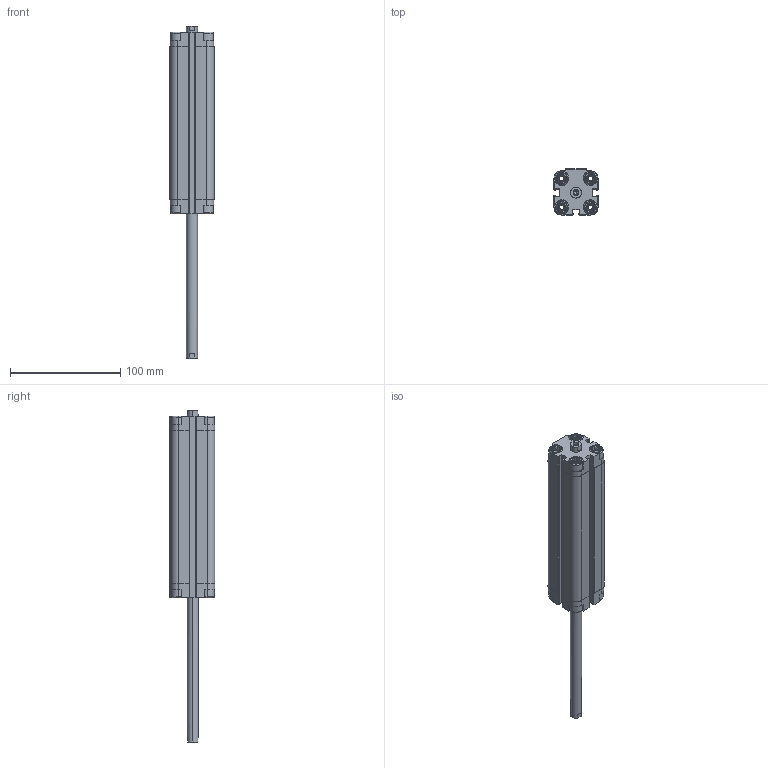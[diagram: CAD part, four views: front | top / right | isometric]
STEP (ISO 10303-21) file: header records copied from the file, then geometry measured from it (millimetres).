
FILE_DESCRIPTION (( 'STEP AP203' ), '1' );
FILE_NAME ('CDVU25-125F-P.STEP', '2020-07-24T18:10:51', ( '' ), ( '' ), 'SwSTEP 2.0', 'SolidWorks 2019', '' );
FILE_SCHEMA (( 'CONFIG_CONTROL_DESIGN' ));
Length unit declared in the file: millimetre
Products named in the file (1): CDVU25-125F-P
Bounding box: 40 x 41.5 x 300.5 mm (x, y, z)
Volume: 172425.6 mm3; surface area: 74835.2 mm2
Topology: 2 solids, 2 shells, 596 faces, 1574 edges, 1016 vertices
Faces by surface type: plane 356, cylinder 176, cone 48, torus 16
Entity records: 18577 total; most frequent: CARTESIAN_POINT 3755, ORIENTED_EDGE 3132, DIRECTION 3000, EDGE_CURVE 1566, AXIS2_PLACEMENT_3D 1029, VERTEX_POINT 1016, LINE 942, VECTOR 942
